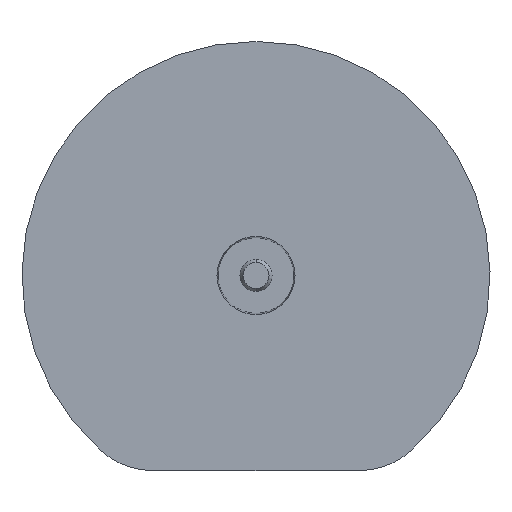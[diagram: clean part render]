
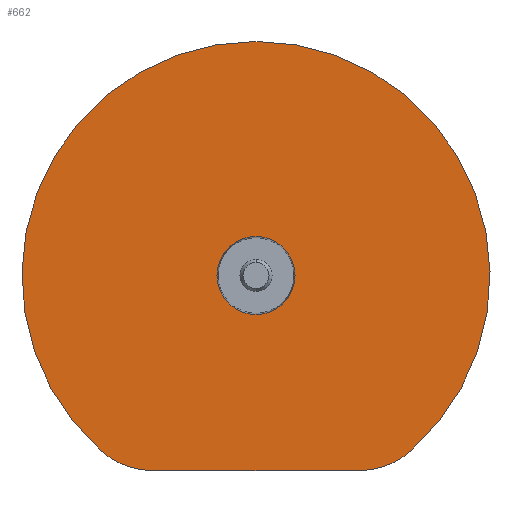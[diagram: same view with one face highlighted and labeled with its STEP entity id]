
A CAD part, front view. The second image highlights one B-rep face of the part: STEP entity #662.
In plain terms, the highlighted planar face has unit normal (0, -1, 0).
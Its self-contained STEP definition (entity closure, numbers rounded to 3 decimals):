
#24 = VERTEX_POINT('',#25);
#25 = CARTESIAN_POINT('',(0.,0.,-1.5));
#32 = CONICAL_SURFACE('',#33,1.5,0.087);
#33 = AXIS2_PLACEMENT_3D('',#34,#35,#36);
#34 = CARTESIAN_POINT('',(0.,0.,0.));
#35 = DIRECTION('',(-0.,-1.,-0.));
#36 = DIRECTION('',(0.,0.,-1.));
#44 = CONICAL_SURFACE('',#45,1.5,0.087);
#45 = AXIS2_PLACEMENT_3D('',#46,#47,#48);
#46 = CARTESIAN_POINT('',(0.,0.,0.));
#47 = DIRECTION('',(-0.,-1.,-0.));
#48 = DIRECTION('',(0.,0.,-1.));
#56 = EDGE_CURVE('',#57,#24,#59,.T.);
#57 = VERTEX_POINT('',#58);
#58 = CARTESIAN_POINT('',(0.,0.,1.5));
#59 = SURFACE_CURVE('',#60,(#65,#72),.PCURVE_S1.);
#60 = CIRCLE('',#61,1.5);
#61 = AXIS2_PLACEMENT_3D('',#62,#63,#64);
#62 = CARTESIAN_POINT('',(0.,0.,0.));
#63 = DIRECTION('',(0.,-1.,-0.));
#64 = DIRECTION('',(0.,0.,-1.));
#65 = PCURVE('',#32,#66);
#66 = DEFINITIONAL_REPRESENTATION('',(#67),#71);
#67 = LINE('',#68,#69);
#68 = CARTESIAN_POINT('',(0.,0.));
#69 = VECTOR('',#70,1.);
#70 = DIRECTION('',(1.,0.));
#71 = ( GEOMETRIC_REPRESENTATION_CONTEXT(2) 
PARAMETRIC_REPRESENTATION_CONTEXT() REPRESENTATION_CONTEXT('2D SPACE',''
  ) );
#72 = PCURVE('',#73,#78);
#73 = PLANE('',#74);
#74 = AXIS2_PLACEMENT_3D('',#75,#76,#77);
#75 = CARTESIAN_POINT('',(0.,0.,0.));
#76 = DIRECTION('',(0.,1.,0.));
#77 = DIRECTION('',(0.,-0.,1.));
#78 = DEFINITIONAL_REPRESENTATION('',(#79),#87);
#79 = ( BOUNDED_CURVE() B_SPLINE_CURVE(2,(#80,#81,#82,#83,#84,#85,#86),
.UNSPECIFIED.,.T.,.F.) B_SPLINE_CURVE_WITH_KNOTS((1,2,2,2,2,1),(
    -2.094,0.,2.094,4.189,6.283,
8.378),.UNSPECIFIED.) CURVE() GEOMETRIC_REPRESENTATION_ITEM() 
RATIONAL_B_SPLINE_CURVE((1.,0.5,1.,0.5,1.,0.5,1.)) REPRESENTATION_ITEM(
  '') );
#80 = CARTESIAN_POINT('',(-1.5,0.));
#81 = CARTESIAN_POINT('',(-1.5,2.598));
#82 = CARTESIAN_POINT('',(0.75,1.299));
#83 = CARTESIAN_POINT('',(3.,0.));
#84 = CARTESIAN_POINT('',(0.75,-1.299));
#85 = CARTESIAN_POINT('',(-1.5,-2.598));
#86 = CARTESIAN_POINT('',(-1.5,0.));
#87 = ( GEOMETRIC_REPRESENTATION_CONTEXT(2) 
PARAMETRIC_REPRESENTATION_CONTEXT() REPRESENTATION_CONTEXT('2D SPACE',''
  ) );
#424 = PLANE('',#425);
#425 = AXIS2_PLACEMENT_3D('',#426,#427,#428);
#426 = CARTESIAN_POINT('',(-3.969,0.,-7.5));
#427 = DIRECTION('',(0.,0.,-1.));
#428 = DIRECTION('',(-1.,0.,-0.));
#522 = CYLINDRICAL_SURFACE('',#523,9.);
#523 = AXIS2_PLACEMENT_3D('',#524,#525,#526);
#524 = CARTESIAN_POINT('',(0.,1.5,0.));
#525 = DIRECTION('',(-0.,-1.,-0.));
#526 = DIRECTION('',(0.,0.,-1.));
#551 = CYLINDRICAL_SURFACE('',#552,3.);
#552 = AXIS2_PLACEMENT_3D('',#553,#554,#555);
#553 = CARTESIAN_POINT('',(3.969,0.,-4.5));
#554 = DIRECTION('',(-0.,1.,-0.));
#555 = DIRECTION('',(0.,0.,1.));
#651 = CYLINDRICAL_SURFACE('',#652,3.);
#652 = AXIS2_PLACEMENT_3D('',#653,#654,#655);
#653 = CARTESIAN_POINT('',(-3.969,0.,-4.5));
#654 = DIRECTION('',(-0.,1.,-0.));
#655 = DIRECTION('',(0.,0.,1.));
#662 = ADVANCED_FACE('',(#663,#692),#73,.F.);
#663 = FACE_BOUND('',#664,.T.);
#664 = EDGE_LOOP('',(#665,#691));
#665 = ORIENTED_EDGE('',*,*,#666,.F.);
#666 = EDGE_CURVE('',#24,#57,#667,.T.);
#667 = SURFACE_CURVE('',#668,(#673,#684),.PCURVE_S1.);
#668 = CIRCLE('',#669,1.5);
#669 = AXIS2_PLACEMENT_3D('',#670,#671,#672);
#670 = CARTESIAN_POINT('',(0.,0.,0.));
#671 = DIRECTION('',(0.,-1.,-0.));
#672 = DIRECTION('',(0.,0.,-1.));
#673 = PCURVE('',#73,#674);
#674 = DEFINITIONAL_REPRESENTATION('',(#675),#683);
#675 = ( BOUNDED_CURVE() B_SPLINE_CURVE(2,(#676,#677,#678,#679,#680,#681
,#682),.UNSPECIFIED.,.T.,.F.) B_SPLINE_CURVE_WITH_KNOTS((1,2,2,2,2,1),(
    -2.094,0.,2.094,4.189,6.283,
8.378),.UNSPECIFIED.) CURVE() GEOMETRIC_REPRESENTATION_ITEM() 
RATIONAL_B_SPLINE_CURVE((1.,0.5,1.,0.5,1.,0.5,1.)) REPRESENTATION_ITEM(
  '') );
#676 = CARTESIAN_POINT('',(-1.5,0.));
#677 = CARTESIAN_POINT('',(-1.5,2.598));
#678 = CARTESIAN_POINT('',(0.75,1.299));
#679 = CARTESIAN_POINT('',(3.,0.));
#680 = CARTESIAN_POINT('',(0.75,-1.299));
#681 = CARTESIAN_POINT('',(-1.5,-2.598));
#682 = CARTESIAN_POINT('',(-1.5,0.));
#683 = ( GEOMETRIC_REPRESENTATION_CONTEXT(2) 
PARAMETRIC_REPRESENTATION_CONTEXT() REPRESENTATION_CONTEXT('2D SPACE',''
  ) );
#684 = PCURVE('',#44,#685);
#685 = DEFINITIONAL_REPRESENTATION('',(#686),#690);
#686 = LINE('',#687,#688);
#687 = CARTESIAN_POINT('',(0.,0.));
#688 = VECTOR('',#689,1.);
#689 = DIRECTION('',(1.,0.));
#690 = ( GEOMETRIC_REPRESENTATION_CONTEXT(2) 
PARAMETRIC_REPRESENTATION_CONTEXT() REPRESENTATION_CONTEXT('2D SPACE',''
  ) );
#691 = ORIENTED_EDGE('',*,*,#56,.F.);
#692 = FACE_BOUND('',#693,.T.);
#693 = EDGE_LOOP('',(#694,#720,#744,#768));
#694 = ORIENTED_EDGE('',*,*,#695,.F.);
#695 = EDGE_CURVE('',#696,#698,#700,.T.);
#696 = VERTEX_POINT('',#697);
#697 = CARTESIAN_POINT('',(5.953,0.,-6.75));
#698 = VERTEX_POINT('',#699);
#699 = CARTESIAN_POINT('',(3.969,0.,-7.5));
#700 = SURFACE_CURVE('',#701,(#706,#713),.PCURVE_S1.);
#701 = CIRCLE('',#702,3.);
#702 = AXIS2_PLACEMENT_3D('',#703,#704,#705);
#703 = CARTESIAN_POINT('',(3.969,0.,-4.5));
#704 = DIRECTION('',(0.,1.,0.));
#705 = DIRECTION('',(0.,-0.,1.));
#706 = PCURVE('',#73,#707);
#707 = DEFINITIONAL_REPRESENTATION('',(#708),#712);
#708 = CIRCLE('',#709,3.);
#709 = AXIS2_PLACEMENT_2D('',#710,#711);
#710 = CARTESIAN_POINT('',(-4.5,3.969));
#711 = DIRECTION('',(1.,0.));
#712 = ( GEOMETRIC_REPRESENTATION_CONTEXT(2) 
PARAMETRIC_REPRESENTATION_CONTEXT() REPRESENTATION_CONTEXT('2D SPACE',''
  ) );
#713 = PCURVE('',#551,#714);
#714 = DEFINITIONAL_REPRESENTATION('',(#715),#719);
#715 = LINE('',#716,#717);
#716 = CARTESIAN_POINT('',(0.,0.));
#717 = VECTOR('',#718,1.);
#718 = DIRECTION('',(1.,0.));
#719 = ( GEOMETRIC_REPRESENTATION_CONTEXT(2) 
PARAMETRIC_REPRESENTATION_CONTEXT() REPRESENTATION_CONTEXT('2D SPACE',''
  ) );
#720 = ORIENTED_EDGE('',*,*,#721,.F.);
#721 = EDGE_CURVE('',#722,#696,#724,.T.);
#722 = VERTEX_POINT('',#723);
#723 = CARTESIAN_POINT('',(-5.953,0.,-6.75));
#724 = SURFACE_CURVE('',#725,(#730,#737),.PCURVE_S1.);
#725 = CIRCLE('',#726,9.);
#726 = AXIS2_PLACEMENT_3D('',#727,#728,#729);
#727 = CARTESIAN_POINT('',(0.,0.,0.));
#728 = DIRECTION('',(0.,1.,0.));
#729 = DIRECTION('',(0.,-0.,1.));
#730 = PCURVE('',#73,#731);
#731 = DEFINITIONAL_REPRESENTATION('',(#732),#736);
#732 = CIRCLE('',#733,9.);
#733 = AXIS2_PLACEMENT_2D('',#734,#735);
#734 = CARTESIAN_POINT('',(0.,0.));
#735 = DIRECTION('',(1.,0.));
#736 = ( GEOMETRIC_REPRESENTATION_CONTEXT(2) 
PARAMETRIC_REPRESENTATION_CONTEXT() REPRESENTATION_CONTEXT('2D SPACE',''
  ) );
#737 = PCURVE('',#522,#738);
#738 = DEFINITIONAL_REPRESENTATION('',(#739),#743);
#739 = LINE('',#740,#741);
#740 = CARTESIAN_POINT('',(9.425,1.5));
#741 = VECTOR('',#742,1.);
#742 = DIRECTION('',(-1.,0.));
#743 = ( GEOMETRIC_REPRESENTATION_CONTEXT(2) 
PARAMETRIC_REPRESENTATION_CONTEXT() REPRESENTATION_CONTEXT('2D SPACE',''
  ) );
#744 = ORIENTED_EDGE('',*,*,#745,.F.);
#745 = EDGE_CURVE('',#746,#722,#748,.T.);
#746 = VERTEX_POINT('',#747);
#747 = CARTESIAN_POINT('',(-3.969,0.,-7.5));
#748 = SURFACE_CURVE('',#749,(#754,#761),.PCURVE_S1.);
#749 = CIRCLE('',#750,3.);
#750 = AXIS2_PLACEMENT_3D('',#751,#752,#753);
#751 = CARTESIAN_POINT('',(-3.969,0.,-4.5));
#752 = DIRECTION('',(0.,1.,0.));
#753 = DIRECTION('',(0.,-0.,1.));
#754 = PCURVE('',#73,#755);
#755 = DEFINITIONAL_REPRESENTATION('',(#756),#760);
#756 = CIRCLE('',#757,3.);
#757 = AXIS2_PLACEMENT_2D('',#758,#759);
#758 = CARTESIAN_POINT('',(-4.5,-3.969));
#759 = DIRECTION('',(1.,0.));
#760 = ( GEOMETRIC_REPRESENTATION_CONTEXT(2) 
PARAMETRIC_REPRESENTATION_CONTEXT() REPRESENTATION_CONTEXT('2D SPACE',''
  ) );
#761 = PCURVE('',#651,#762);
#762 = DEFINITIONAL_REPRESENTATION('',(#763),#767);
#763 = LINE('',#764,#765);
#764 = CARTESIAN_POINT('',(0.,0.));
#765 = VECTOR('',#766,1.);
#766 = DIRECTION('',(1.,0.));
#767 = ( GEOMETRIC_REPRESENTATION_CONTEXT(2) 
PARAMETRIC_REPRESENTATION_CONTEXT() REPRESENTATION_CONTEXT('2D SPACE',''
  ) );
#768 = ORIENTED_EDGE('',*,*,#769,.F.);
#769 = EDGE_CURVE('',#698,#746,#770,.T.);
#770 = SURFACE_CURVE('',#771,(#775,#782),.PCURVE_S1.);
#771 = LINE('',#772,#773);
#772 = CARTESIAN_POINT('',(-3.969,0.,-7.5));
#773 = VECTOR('',#774,1.);
#774 = DIRECTION('',(-1.,-0.,-0.));
#775 = PCURVE('',#73,#776);
#776 = DEFINITIONAL_REPRESENTATION('',(#777),#781);
#777 = LINE('',#778,#779);
#778 = CARTESIAN_POINT('',(-7.5,-3.969));
#779 = VECTOR('',#780,1.);
#780 = DIRECTION('',(0.,-1.));
#781 = ( GEOMETRIC_REPRESENTATION_CONTEXT(2) 
PARAMETRIC_REPRESENTATION_CONTEXT() REPRESENTATION_CONTEXT('2D SPACE',''
  ) );
#782 = PCURVE('',#424,#783);
#783 = DEFINITIONAL_REPRESENTATION('',(#784),#788);
#784 = LINE('',#785,#786);
#785 = CARTESIAN_POINT('',(0.,0.));
#786 = VECTOR('',#787,1.);
#787 = DIRECTION('',(1.,0.));
#788 = ( GEOMETRIC_REPRESENTATION_CONTEXT(2) 
PARAMETRIC_REPRESENTATION_CONTEXT() REPRESENTATION_CONTEXT('2D SPACE',''
  ) );
